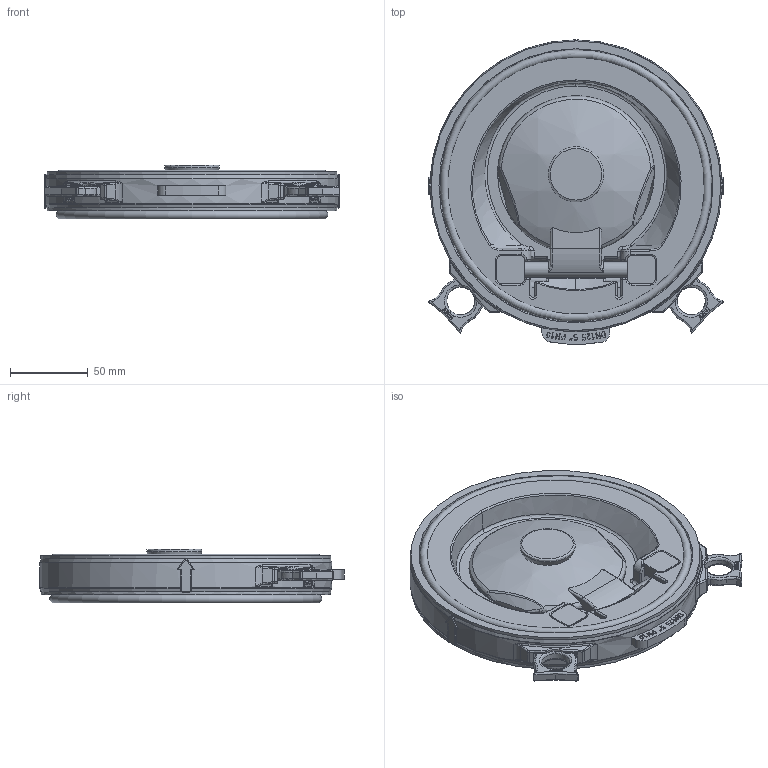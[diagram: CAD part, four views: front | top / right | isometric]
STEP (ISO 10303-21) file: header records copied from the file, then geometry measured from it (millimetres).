
FILE_DESCRIPTION(/* description */ ('Valvola a clapet d.140 - corpo','CAx-IF Rec.Pracs.---Representation and Presentation of Product Manufacturing Information (PMI)---3.8---2014-02-18'),/* implementation_level */ '2;1');
FILE_NAME(/* name */ 'C:\Users\POLYPIPE\Desktop\DATASET INVENTOR\LIBRERIA EFFAST\3D_VALVOLE\3D_VALVOLE A CLAPET\3D_CDRCKD1400 (00).stp',/* time_stamp */ '2018-04-20T12:17:43+02:00',/* author */ ('POLYPIPE'),/* organization */ ('Polypipe Italia'),/* preprocessor_version */ 'ST-DEVELOPER v16.1',/* originating_system */ 'Autodesk Inventor 2016',/* authorisation */ '');
FILE_SCHEMA (('AP242_MANAGED_MODEL_BASED_3D_ENGINEERING_MIM_LF { 1 0 10303 442 1 1 4 }'));
Products named in the file (7): CDRCCK1400 (00); CDROTK1400 (00); CDRCCK1400 - asole (00); CDRCCK1400 - tappi (00); OR4350; OR6645; CDRCKD1400 (00)
Assembly tree (7 placements, depth 2):
  CDRCKD1400 (00)
    CDRCCK1400 (00)
    CDROTK1400 (00)
    CDRCCK1400 - asole (00)
    CDRCCK1400 - tappi (00)
    OR4350
    OR6645  x2
Bounding box: 189.99 x 196.03 x 34.74 mm (x, y, z)
Volume: 493746.1 mm3; surface area: 136557.7 mm2
Topology: 9 solids, 9 shells, 1151 faces, 3068 edges, 1916 vertices
Faces by surface type: bspline 520, plane 342, cylinder 200, torus 47, sphere 21, cone 21
Full cylindrical faces by diameter (mm): 10 x1, 18 x2, 94 x1, 164 x1, 165.5 x1, 175 x1, 176.5 x1, 186.6 x2
Entity records: 73717 total; most frequent: CARTESIAN_POINT 47236, ORIENTED_EDGE 5954, DIRECTION 4064, EDGE_CURVE 2977, VERTEX_POINT 1898, AXIS2_PLACEMENT_3D 1477, EDGE_LOOP 1215, STYLED_ITEM 1156
